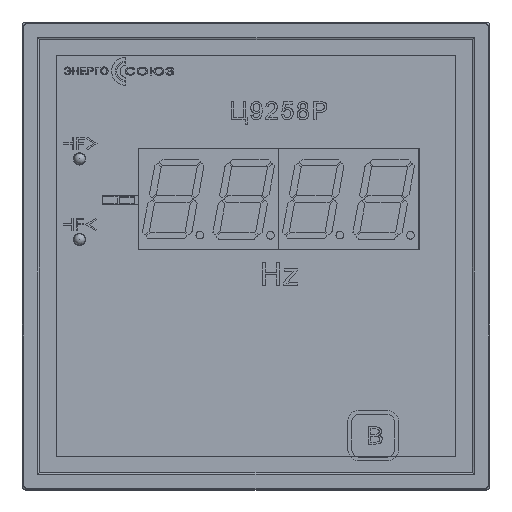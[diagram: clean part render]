
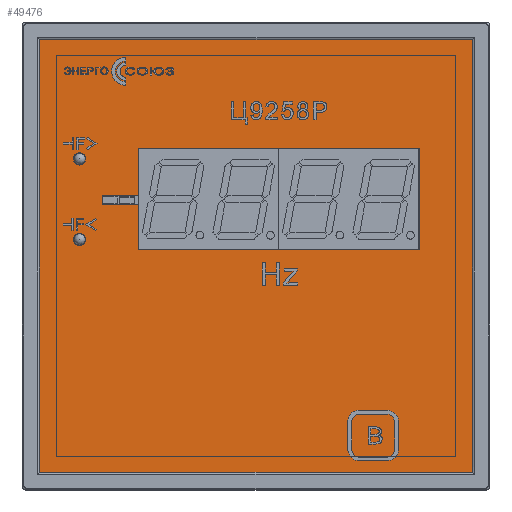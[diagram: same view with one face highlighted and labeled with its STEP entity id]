
A CAD part, top view. The second image highlights one B-rep face of the part: STEP entity #49476.
In plain terms, the highlighted planar face has unit normal (0, 0, 1).
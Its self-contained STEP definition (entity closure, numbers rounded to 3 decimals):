
#143 = DIRECTION ( 'NONE',  ( 0., 0., 1. ) ) ;
#204 = VERTEX_POINT ( 'NONE', #69558 ) ;
#1111 = EDGE_CURVE ( 'NONE', #61126, #37962, #54910, .T. ) ;
#2344 = CARTESIAN_POINT ( 'NONE',  ( -30.049, 27.637, 0.2 ) ) ;
#3772 = ORIENTED_EDGE ( 'NONE', *, *, #84185, .F. ) ;
#4374 = VECTOR ( 'NONE', #9358, 1000. ) ;
#5172 = CARTESIAN_POINT ( 'NONE',  ( 41.951, 27.637, 0.2 ) ) ;
#6691 = VECTOR ( 'NONE', #8179, 1000. ) ;
#7212 = DIRECTION ( 'NONE',  ( 1., 0., 0. ) ) ;
#7723 = DIRECTION ( 'NONE',  ( 0., -1., 0. ) ) ;
#7793 = CARTESIAN_POINT ( 'NONE',  ( -45.241, 4.243, 0.2 ) ) ;
#8073 = LINE ( 'NONE', #2344, #4374 ) ;
#8179 = DIRECTION ( 'NONE',  ( -1., 0., 0. ) ) ;
#9358 = DIRECTION ( 'NONE',  ( -1., 0., 0. ) ) ;
#9951 = EDGE_CURVE ( 'NONE', #21303, #78493, #83365, .T. ) ;
#10041 = CARTESIAN_POINT ( 'NONE',  ( -30.049, 15.524, 0.2 ) ) ;
#10366 = EDGE_CURVE ( 'NONE', #204, #15275, #32870, .T. ) ;
#11020 = CARTESIAN_POINT ( 'NONE',  ( 55.5, -55.5, 0.2 ) ) ;
#13195 = EDGE_CURVE ( 'NONE', #74859, #78669, #68498, .T. ) ;
#13736 = FACE_OUTER_BOUND ( 'NONE', #53475, .T. ) ;
#13897 = ORIENTED_EDGE ( 'NONE', *, *, #54142, .F. ) ;
#14011 = VECTOR ( 'NONE', #84307, 1000. ) ;
#15275 = VERTEX_POINT ( 'NONE', #80313 ) ;
#15772 = LINE ( 'NONE', #42658, #18897 ) ;
#16845 = ORIENTED_EDGE ( 'NONE', *, *, #42088, .F. ) ;
#18897 = VECTOR ( 'NONE', #21562, 1000. ) ;
#19041 = ORIENTED_EDGE ( 'NONE', *, *, #27816, .T. ) ;
#19123 = ORIENTED_EDGE ( 'NONE', *, *, #23969, .T. ) ;
#19912 = FACE_BOUND ( 'NONE', #45972, .T. ) ;
#21210 = AXIS2_PLACEMENT_3D ( 'NONE', #35165, #83986, #42577 ) ;
#21303 = VERTEX_POINT ( 'NONE', #41967 ) ;
#21562 = DIRECTION ( 'NONE',  ( 0., -1., 0. ) ) ;
#21640 = CARTESIAN_POINT ( 'NONE',  ( -30.049, 15.524, 0.2 ) ) ;
#22349 = AXIS2_PLACEMENT_3D ( 'NONE', #7793, #75133, #34721 ) ;
#22440 = ORIENTED_EDGE ( 'NONE', *, *, #36569, .F. ) ;
#22916 = ORIENTED_EDGE ( 'NONE', *, *, #9951, .F. ) ;
#23969 = EDGE_CURVE ( 'NONE', #72478, #204, #81010, .T. ) ;
#25011 = DIRECTION ( 'NONE',  ( 1., 0., 0. ) ) ;
#26174 = VECTOR ( 'NONE', #7723, 1000. ) ;
#26395 = CARTESIAN_POINT ( 'NONE',  ( -55.5, 55.5, 0.2 ) ) ;
#26847 = CIRCLE ( 'NONE', #21210, 1.571 ) ;
#27816 = EDGE_CURVE ( 'NONE', #15275, #77734, #32756, .T. ) ;
#27856 = DIRECTION ( 'NONE',  ( 1., 0., 0. ) ) ;
#29438 = AXIS2_PLACEMENT_3D ( 'NONE', #40191, #143, #27856 ) ;
#30584 = LINE ( 'NONE', #57450, #14011 ) ;
#30789 = CIRCLE ( 'NONE', #22349, 1.571 ) ;
#30894 = ORIENTED_EDGE ( 'NONE', *, *, #71424, .F. ) ;
#31319 = CARTESIAN_POINT ( 'NONE',  ( -46.812, 4.243, 0.2 ) ) ;
#31369 = ORIENTED_EDGE ( 'NONE', *, *, #10366, .T. ) ;
#31746 = EDGE_CURVE ( 'NONE', #77734, #72478, #45330, .T. ) ;
#32756 = LINE ( 'NONE', #58321, #36495 ) ;
#32870 = LINE ( 'NONE', #41650, #26174 ) ;
#33032 = CARTESIAN_POINT ( 'NONE',  ( 55.5, 55.5, 0.2 ) ) ;
#34202 = CARTESIAN_POINT ( 'NONE',  ( -39.339, 15.524, 0.2 ) ) ;
#34295 = CIRCLE ( 'NONE', #67924, 1.571 ) ;
#34439 = VECTOR ( 'NONE', #53306, 1000. ) ;
#34496 = FACE_BOUND ( 'NONE', #67255, .T. ) ;
#34721 = DIRECTION ( 'NONE',  ( 1., 0., 0. ) ) ;
#34865 = VECTOR ( 'NONE', #46224, 1000. ) ;
#35165 = CARTESIAN_POINT ( 'NONE',  ( -45.241, 4.243, 0.2 ) ) ;
#36158 = EDGE_LOOP ( 'NONE', ( #77218, #78016, #36544, #30894, #85969, #3772, #48240, #22916 ) ) ;
#36495 = VECTOR ( 'NONE', #52163, 1000. ) ;
#36544 = ORIENTED_EDGE ( 'NONE', *, *, #54595, .F. ) ;
#36569 = EDGE_CURVE ( 'NONE', #61348, #39974, #38061, .T. ) ;
#36967 = DIRECTION ( 'NONE',  ( 0., -1., 0. ) ) ;
#37962 = VERTEX_POINT ( 'NONE', #46230 ) ;
#38061 = CIRCLE ( 'NONE', #78853, 1.571 ) ;
#38652 = VECTOR ( 'NONE', #36967, 1000. ) ;
#39071 = DIRECTION ( 'NONE',  ( 0., 0., 1. ) ) ;
#39974 = VERTEX_POINT ( 'NONE', #52054 ) ;
#40191 = CARTESIAN_POINT ( 'NONE',  ( -55.5, -55.5, 0.2 ) ) ;
#40392 = VECTOR ( 'NONE', #41710, 1000. ) ;
#41650 = CARTESIAN_POINT ( 'NONE',  ( -55.5, 55.5, 0.2 ) ) ;
#41710 = DIRECTION ( 'NONE',  ( 0., 1., 0. ) ) ;
#41967 = CARTESIAN_POINT ( 'NONE',  ( -39.339, 13.175, 0.2 ) ) ;
#42088 = EDGE_CURVE ( 'NONE', #84262, #48535, #30789, .T. ) ;
#42577 = DIRECTION ( 'NONE',  ( 1., 0., 0. ) ) ;
#42658 = CARTESIAN_POINT ( 'NONE',  ( -39.339, 13.175, 0.2 ) ) ;
#43695 = DIRECTION ( 'NONE',  ( 1., 0., 0. ) ) ;
#44216 = CARTESIAN_POINT ( 'NONE',  ( 41.951, 1.725, 0.2 ) ) ;
#45127 = PLANE ( 'NONE',  #29438 ) ;
#45330 = LINE ( 'NONE', #33032, #34865 ) ;
#45972 = EDGE_LOOP ( 'NONE', ( #22440, #13897 ) ) ;
#46224 = DIRECTION ( 'NONE',  ( 0., 1., 0. ) ) ;
#46230 = CARTESIAN_POINT ( 'NONE',  ( -39.339, 15.524, 0.2 ) ) ;
#47909 = CARTESIAN_POINT ( 'NONE',  ( 41.951, 27.637, 0.2 ) ) ;
#48240 = ORIENTED_EDGE ( 'NONE', *, *, #58646, .F. ) ;
#48350 = CARTESIAN_POINT ( 'NONE',  ( -43.67, 4.243, 0.2 ) ) ;
#48372 = EDGE_CURVE ( 'NONE', #37962, #21303, #15772, .T. ) ;
#48465 = CARTESIAN_POINT ( 'NONE',  ( -30.049, 13.175, 0.2 ) ) ;
#48535 = VERTEX_POINT ( 'NONE', #48350 ) ;
#49476 = ADVANCED_FACE ( 'NONE', ( #60446, #19912, #34496, #13736 ), #45127, .T. ) ;
#52054 = CARTESIAN_POINT ( 'NONE',  ( -46.807, 24.89, 0.2 ) ) ;
#52163 = DIRECTION ( 'NONE',  ( 1., 0., 0. ) ) ;
#53306 = DIRECTION ( 'NONE',  ( -1., 0., 0. ) ) ;
#53475 = EDGE_LOOP ( 'NONE', ( #31369, #19041, #53940, #19123 ) ) ;
#53940 = ORIENTED_EDGE ( 'NONE', *, *, #31746, .T. ) ;
#54142 = EDGE_CURVE ( 'NONE', #39974, #61348, #34295, .T. ) ;
#54271 = CARTESIAN_POINT ( 'NONE',  ( 55.5, 55.5, 0.2 ) ) ;
#54595 = EDGE_CURVE ( 'NONE', #80003, #61126, #69860, .T. ) ;
#54910 = LINE ( 'NONE', #34202, #6691 ) ;
#56518 = ORIENTED_EDGE ( 'NONE', *, *, #71027, .F. ) ;
#57450 = CARTESIAN_POINT ( 'NONE',  ( -30.049, 1.725, 0.2 ) ) ;
#57757 = LINE ( 'NONE', #65141, #76600 ) ;
#58321 = CARTESIAN_POINT ( 'NONE',  ( -55.5, -55.5, 0.2 ) ) ;
#58646 = EDGE_CURVE ( 'NONE', #78493, #59980, #30584, .T. ) ;
#59980 = VERTEX_POINT ( 'NONE', #85202 ) ;
#60446 = FACE_BOUND ( 'NONE', #36158, .T. ) ;
#61126 = VERTEX_POINT ( 'NONE', #21640 ) ;
#61281 = VECTOR ( 'NONE', #43695, 1000. ) ;
#61348 = VERTEX_POINT ( 'NONE', #66808 ) ;
#65141 = CARTESIAN_POINT ( 'NONE',  ( 41.951, 1.725, 0.2 ) ) ;
#66808 = CARTESIAN_POINT ( 'NONE',  ( -43.665, 24.89, 0.2 ) ) ;
#67255 = EDGE_LOOP ( 'NONE', ( #56518, #16845 ) ) ;
#67924 = AXIS2_PLACEMENT_3D ( 'NONE', #72011, #39071, #25011 ) ;
#68498 = LINE ( 'NONE', #47909, #40392 ) ;
#69558 = CARTESIAN_POINT ( 'NONE',  ( -55.5, 55.5, 0.2 ) ) ;
#69860 = LINE ( 'NONE', #10041, #38652 ) ;
#71027 = EDGE_CURVE ( 'NONE', #48535, #84262, #26847, .T. ) ;
#71424 = EDGE_CURVE ( 'NONE', #78669, #80003, #8073, .T. ) ;
#72011 = CARTESIAN_POINT ( 'NONE',  ( -45.236, 24.89, 0.2 ) ) ;
#72478 = VERTEX_POINT ( 'NONE', #54271 ) ;
#74859 = VERTEX_POINT ( 'NONE', #44216 ) ;
#75133 = DIRECTION ( 'NONE',  ( 0., 0., 1. ) ) ;
#76600 = VECTOR ( 'NONE', #78851, 1000. ) ;
#77218 = ORIENTED_EDGE ( 'NONE', *, *, #48372, .F. ) ;
#77734 = VERTEX_POINT ( 'NONE', #11020 ) ;
#78016 = ORIENTED_EDGE ( 'NONE', *, *, #1111, .F. ) ;
#78493 = VERTEX_POINT ( 'NONE', #48465 ) ;
#78669 = VERTEX_POINT ( 'NONE', #5172 ) ;
#78851 = DIRECTION ( 'NONE',  ( 1., 0., 0. ) ) ;
#78853 = AXIS2_PLACEMENT_3D ( 'NONE', #81690, #80786, #7212 ) ;
#80003 = VERTEX_POINT ( 'NONE', #84531 ) ;
#80313 = CARTESIAN_POINT ( 'NONE',  ( -55.5, -55.5, 0.2 ) ) ;
#80786 = DIRECTION ( 'NONE',  ( 0., 0., 1. ) ) ;
#81010 = LINE ( 'NONE', #26395, #34439 ) ;
#81690 = CARTESIAN_POINT ( 'NONE',  ( -45.236, 24.89, 0.2 ) ) ;
#83365 = LINE ( 'NONE', #84214, #61281 ) ;
#83986 = DIRECTION ( 'NONE',  ( 0., 0., 1. ) ) ;
#84185 = EDGE_CURVE ( 'NONE', #59980, #74859, #57757, .T. ) ;
#84214 = CARTESIAN_POINT ( 'NONE',  ( -30.049, 13.175, 0.2 ) ) ;
#84262 = VERTEX_POINT ( 'NONE', #31319 ) ;
#84307 = DIRECTION ( 'NONE',  ( 0., -1., 0. ) ) ;
#84531 = CARTESIAN_POINT ( 'NONE',  ( -30.049, 27.637, 0.2 ) ) ;
#85202 = CARTESIAN_POINT ( 'NONE',  ( -30.049, 1.725, 0.2 ) ) ;
#85969 = ORIENTED_EDGE ( 'NONE', *, *, #13195, .F. ) ;
